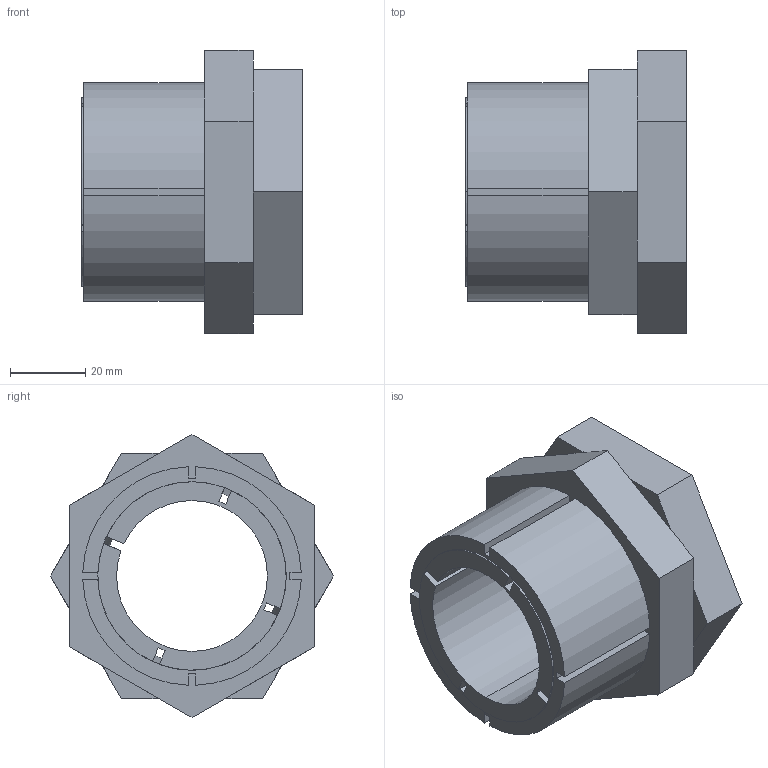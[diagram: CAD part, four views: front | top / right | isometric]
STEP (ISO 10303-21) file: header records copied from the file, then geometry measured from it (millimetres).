
FILE_DESCRIPTION (( 'STEP AP203' ), '1' );
FILE_NAME ('KBS 59 - 40 x 58.STEP', '2015-07-07T21:09:07', ( '' ), ( '' ), 'SwSTEP 2.0', 'SolidWorks 2010', '' );
FILE_SCHEMA (( 'CONFIG_CONTROL_DESIGN' ));
Length unit declared in the file: millimetre
Products named in the file (1): KBS 59 - 40 x 58
Bounding box: 58.5 x 75.06 x 75.06 mm (x, y, z)
Volume: 104147.1 mm3; surface area: 45668.3 mm2
Topology: 3 solids, 3 shells, 78 faces, 204 edges, 132 vertices
Faces by surface type: plane 56, cylinder 14, cone 8
Entity records: 2469 total; most frequent: CARTESIAN_POINT 451, ORIENTED_EDGE 408, DIRECTION 396, EDGE_CURVE 204, LINE 150, VECTOR 150, VERTEX_POINT 132, AXIS2_PLACEMENT_3D 123
